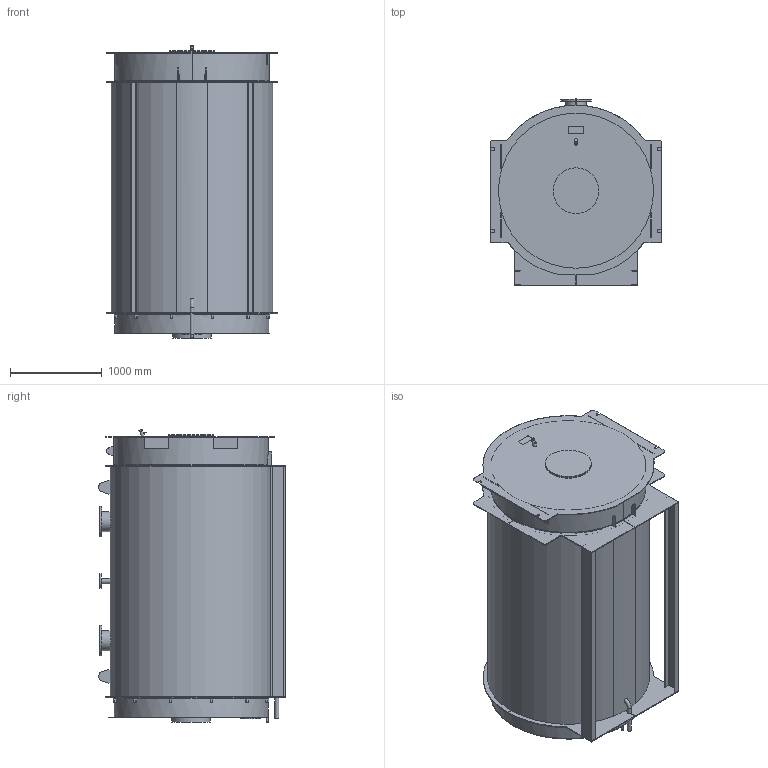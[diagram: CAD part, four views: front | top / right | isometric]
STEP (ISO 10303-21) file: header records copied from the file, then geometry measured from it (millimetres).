
FILE_DESCRIPTION(/* description */ (''),/* implementation_level */ '2;1');
FILE_NAME(/* name */ 'D:\Водогрейные 2х-ходовые котлы Гейзер\3D для проектировщиков\3D Гейзер 2000 кВт для проектировщика.stp',/* time_stamp */ '2024-08-15T00:13:21+07:00',/* author */ ('Александр'),/* organization */ (''),/* preprocessor_version */ 'ST-DEVELOPER v18.1',/* originating_system */ 'Autodesk Inventor 2021',/* authorisation */ '');
FILE_SCHEMA (('AUTOMOTIVE_DESIGN { 1 0 10303 214 3 1 1 }'));
Length unit declared in the file: millimetre
Products named in the file (1): Гейзер 2000 кВт_
Shrinkwrap_1
Bounding box: 1870 x 2037.81 x 3205.55 mm (x, y, z)
Volume: 7459604194 mm3; surface area: 29922624.7 mm2
Topology: 2 solids, 5 shells, 571 faces, 1552 edges, 978 vertices
Faces by surface type: plane 375, cylinder 165, cone 24, torus 6, bspline 1
Full cylindrical faces by diameter (mm): 4 x1, 6 x1, 7.8 x1, 8.7 x3, 21.939 x1, 25 x1, 26 x1, 33.5 x1, 38 x1, 42 x2, 57 x2, 160 x1, 210 x2, 219 x4, 335 x2, 420 x1, 500 x2, 1666 x2, 1691 x1
Entity records: 18994 total; most frequent: CARTESIAN_POINT 3549, DIRECTION 3171, ORIENTED_EDGE 3114, EDGE_CURVE 1560, AXIS2_PLACEMENT_3D 1096, LINE 979, VECTOR 979, VERTEX_POINT 978
